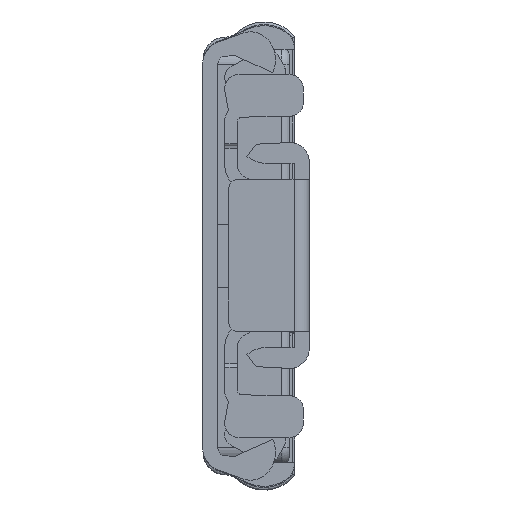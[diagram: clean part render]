
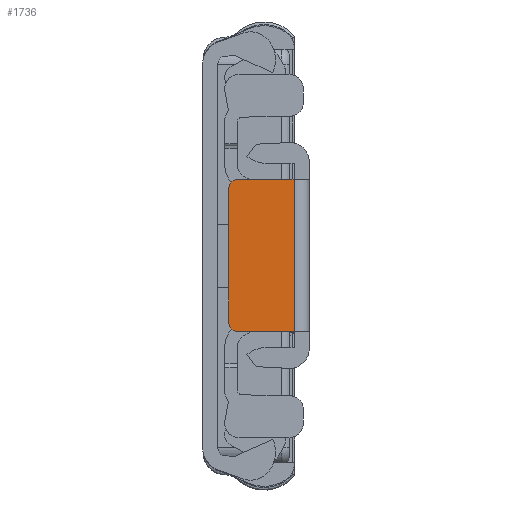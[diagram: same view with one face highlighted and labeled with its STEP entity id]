
A CAD part, front view. The second image highlights one B-rep face of the part: STEP entity #1736.
In plain terms, the highlighted planar face has unit normal (0, -1, 0).
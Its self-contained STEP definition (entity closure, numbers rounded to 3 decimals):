
#1736 = ADVANCED_FACE( '', ( #3601 ), #3602, .T. );
#3601 = FACE_OUTER_BOUND( '', #5653, .T. );
#3602 = PLANE( '', #5654 );
#5653 = EDGE_LOOP( '', ( #10654, #10655, #10656, #10657, #10658, #10659 ) );
#5654 = AXIS2_PLACEMENT_3D( '', #10660, #10661, #10662 );
#10654 = ORIENTED_EDGE( '', *, *, #13452, .T. );
#10655 = ORIENTED_EDGE( '', *, *, #13593, .T. );
#10656 = ORIENTED_EDGE( '', *, *, #12101, .T. );
#10657 = ORIENTED_EDGE( '', *, *, #13759, .T. );
#10658 = ORIENTED_EDGE( '', *, *, #14109, .T. );
#10659 = ORIENTED_EDGE( '', *, *, #14110, .T. );
#10660 = CARTESIAN_POINT( '', ( -9., -375.302, -2.366 ) );
#10661 = DIRECTION( '', ( 0., -1., 0. ) );
#10662 = DIRECTION( '', ( 0., 0., -1. ) );
#12101 = EDGE_CURVE( '', #14486, #14487, #14488, .T. );
#13452 = EDGE_CURVE( '', #16701, #16699, #16702, .T. );
#13593 = EDGE_CURVE( '', #16699, #14486, #16892, .T. );
#13759 = EDGE_CURVE( '', #14487, #17114, #17117, .T. );
#14109 = EDGE_CURVE( '', #17114, #17545, #17546, .T. );
#14110 = EDGE_CURVE( '', #17545, #16701, #17547, .T. );
#14486 = VERTEX_POINT( '', #17991 );
#14487 = VERTEX_POINT( '', #17992 );
#14488 = LINE( '', #17993, #17994 );
#16699 = VERTEX_POINT( '', #21077 );
#16701 = VERTEX_POINT( '', #21080 );
#16702 = LINE( '', #21081, #21082 );
#16892 = CIRCLE( '', #21383, 1. );
#17114 = VERTEX_POINT( '', #21685 );
#17117 = LINE( '', #21688, #21689 );
#17545 = VERTEX_POINT( '', #22310 );
#17546 = LINE( '', #22311, #22312 );
#17547 = CIRCLE( '', #22313, 1. );
#17991 = CARTESIAN_POINT( '', ( -9., -375.302, 4.8 ) );
#17992 = CARTESIAN_POINT( '', ( -9., -375.302, -1.898 ) );
#17993 = CARTESIAN_POINT( '', ( -9., -375.302, -2.366 ) );
#17994 = VECTOR( '', #22713, 1000. );
#21077 = CARTESIAN_POINT( '', ( -8., -375.302, 5.8 ) );
#21080 = CARTESIAN_POINT( '', ( 8., -375.302, 5.8 ) );
#21081 = CARTESIAN_POINT( '', ( 9., -375.302, 5.8 ) );
#21082 = VECTOR( '', #24537, 1000. );
#21383 = AXIS2_PLACEMENT_3D( '', #24685, #24686, #24687 );
#21685 = CARTESIAN_POINT( '', ( 9., -375.302, -1.898 ) );
#21688 = CARTESIAN_POINT( '', ( -9., -375.302, -1.898 ) );
#21689 = VECTOR( '', #24885, 1000. );
#22310 = CARTESIAN_POINT( '', ( 9., -375.302, 4.8 ) );
#22311 = CARTESIAN_POINT( '', ( 9., -375.302, -2.366 ) );
#22312 = VECTOR( '', #25269, 1000. );
#22313 = AXIS2_PLACEMENT_3D( '', #25270, #25271, #25272 );
#22713 = DIRECTION( '', ( 0., 0., -1. ) );
#24537 = DIRECTION( '', ( -1., 0., 0. ) );
#24685 = CARTESIAN_POINT( '', ( -8., -375.302, 4.8 ) );
#24686 = DIRECTION( '', ( 0., -1., 0. ) );
#24687 = DIRECTION( '', ( 0., 0., -1. ) );
#24885 = DIRECTION( '', ( 1., 0., 0. ) );
#25269 = DIRECTION( '', ( 0., 0., 1. ) );
#25270 = CARTESIAN_POINT( '', ( 8., -375.302, 4.8 ) );
#25271 = DIRECTION( '', ( 0., -1., 0. ) );
#25272 = DIRECTION( '', ( 0., 0., -1. ) );
